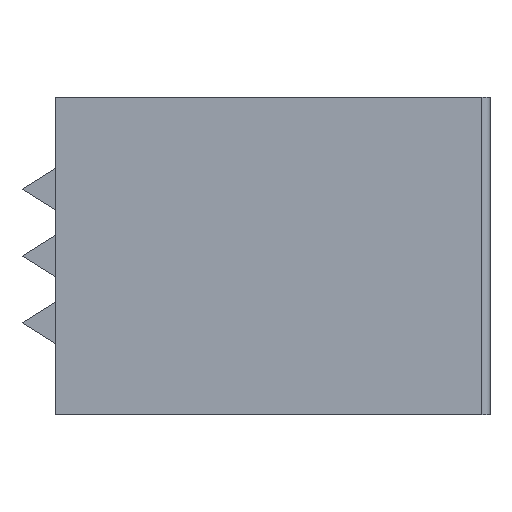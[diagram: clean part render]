
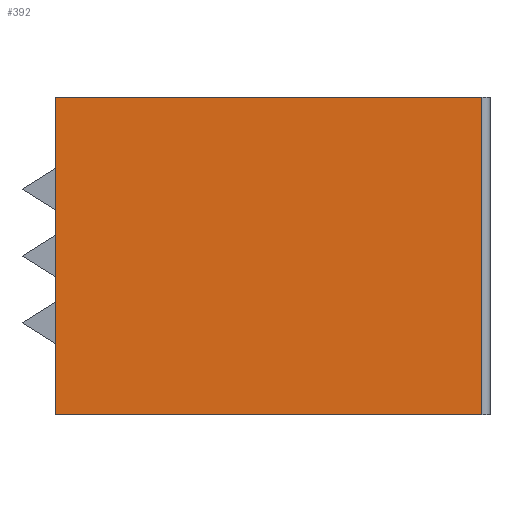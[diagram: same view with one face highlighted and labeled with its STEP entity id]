
A CAD part, left-side view. The second image highlights one B-rep face of the part: STEP entity #392.
In plain terms, the highlighted planar face has unit normal (-1, 0, 0).
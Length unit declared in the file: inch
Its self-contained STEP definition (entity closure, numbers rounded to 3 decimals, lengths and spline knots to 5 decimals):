
#198=CARTESIAN_POINT('',(-0.1825,-0.125,-0.095));
#199=VERTEX_POINT('',#198);
#207=CARTESIAN_POINT('',(-0.1825,0.13,-0.095));
#208=VERTEX_POINT('',#207);
#209=CARTESIAN_POINT('',(-0.1825,-0.125,-0.095));
#210=DIRECTION('',(0.0,1.0,0.0));
#211=VECTOR('',#210,0.255);
#212=LINE('',#209,#211);
#213=EDGE_CURVE('',#199,#208,#212,.T.);
#344=CARTESIAN_POINT('',(-0.1825,-0.125,0.095));
#345=VERTEX_POINT('',#344);
#353=CARTESIAN_POINT('',(-0.1825,-0.125,0.095));
#354=DIRECTION('',(0.0,0.0,-1.0));
#355=VECTOR('',#354,0.19);
#356=LINE('',#353,#355);
#357=EDGE_CURVE('',#345,#199,#356,.T.);
#369=CARTESIAN_POINT('',(-0.1825,-0.13,-0.095));
#370=DIRECTION('',(-1.0,0.0,0.0));
#371=DIRECTION('',(0.0,0.0,1.0));
#372=AXIS2_PLACEMENT_3D('',#369,#370,#371);
#373=PLANE('',#372);
#374=ORIENTED_EDGE('',*,*,#357,.F.);
#375=CARTESIAN_POINT('',(-0.1825,0.13,0.095));
#376=VERTEX_POINT('',#375);
#377=CARTESIAN_POINT('',(-0.1825,-0.125,0.095));
#378=DIRECTION('',(0.0,1.0,0.0));
#379=VECTOR('',#378,0.255);
#380=LINE('',#377,#379);
#381=EDGE_CURVE('',#345,#376,#380,.T.);
#382=ORIENTED_EDGE('',*,*,#381,.T.);
#383=CARTESIAN_POINT('',(-0.1825,0.13,-0.095));
#384=DIRECTION('',(0.0,0.0,1.0));
#385=VECTOR('',#384,0.19);
#386=LINE('',#383,#385);
#387=EDGE_CURVE('',#208,#376,#386,.T.);
#388=ORIENTED_EDGE('',*,*,#387,.F.);
#389=ORIENTED_EDGE('',*,*,#213,.F.);
#390=EDGE_LOOP('',(#374,#382,#388,#389));
#391=FACE_OUTER_BOUND('',#390,.T.);
#392=ADVANCED_FACE('',(#391),#373,.T.);
